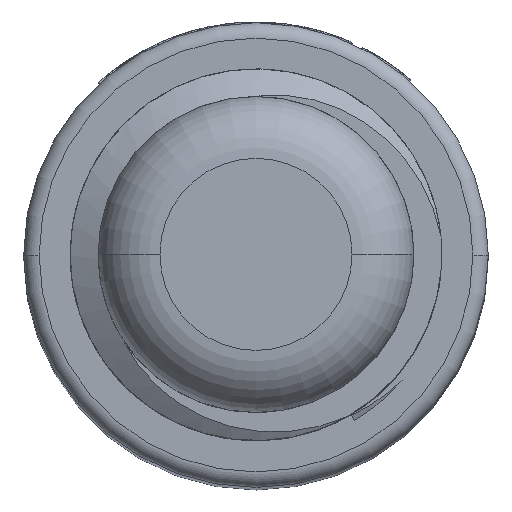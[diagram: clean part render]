
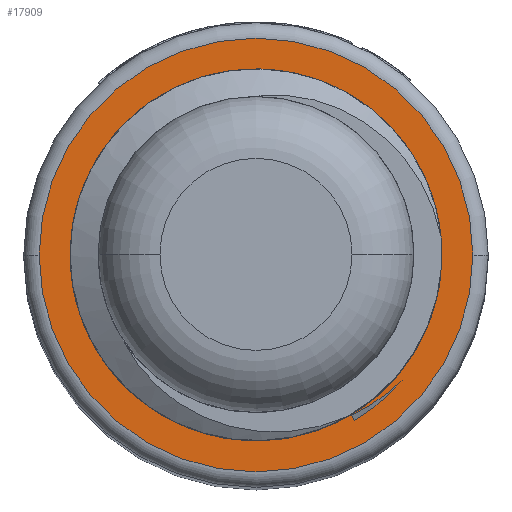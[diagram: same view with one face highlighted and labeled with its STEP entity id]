
A CAD part, top view. The second image highlights one B-rep face of the part: STEP entity #17909.
In plain terms, the highlighted planar face has unit normal (0, 0, 1).
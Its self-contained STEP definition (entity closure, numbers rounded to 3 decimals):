
#5436=CARTESIAN_POINT('',(0.,0.,48.5));
#5437=DIRECTION('',(0.,0.,1.));
#5438=DIRECTION('',(1.,0.,0.));
#5439=AXIS2_PLACEMENT_3D('',#5436,#5437,#5438);
#5441=CARTESIAN_POINT('',(0.,0.,48.5));
#5442=DIRECTION('',(0.,0.,1.));
#5443=DIRECTION('',(-1.,0.,0.));
#5444=AXIS2_PLACEMENT_3D('',#5441,#5442,#5443);
#5446=DIRECTION('',(-0.512,0.859,0.));
#5447=VECTOR('',#5446,0.386);
#5448=CARTESIAN_POINT('',(6.358,-10.681,48.5));
#5449=LINE('',#5448,#5447);
#5450=CARTESIAN_POINT('',(9.426,-8.103,48.5));
#5451=CARTESIAN_POINT('',(9.28,-8.273,48.5));
#5452=CARTESIAN_POINT('',(8.979,-8.604,48.5));
#5453=CARTESIAN_POINT('',(8.502,-9.076,48.5));
#5454=CARTESIAN_POINT('',(8.,-9.521,48.5));
#5455=CARTESIAN_POINT('',(7.475,-9.939,48.5));
#5456=CARTESIAN_POINT('',(6.928,-10.327,48.5));
#5457=CARTESIAN_POINT('',(6.551,-10.566,48.5));
#5458=CARTESIAN_POINT('',(6.358,-10.681,48.5));
#5460=CARTESIAN_POINT('',(6.161,-10.349,48.5));
#5461=CARTESIAN_POINT('',(6.361,-10.255,48.5));
#5462=CARTESIAN_POINT('',(6.756,-10.056,48.5));
#5463=CARTESIAN_POINT('',(7.332,-9.726,48.5));
#5464=CARTESIAN_POINT('',(7.889,-9.364,48.5));
#5465=CARTESIAN_POINT('',(8.425,-8.973,48.5));
#5466=CARTESIAN_POINT('',(8.939,-8.554,48.5));
#5467=CARTESIAN_POINT('',(9.266,-8.256,48.5));
#5468=CARTESIAN_POINT('',(9.426,-8.103,48.5));
#5470=CARTESIAN_POINT('',(0.,0.,48.5));
#5471=DIRECTION('',(0.,0.,1.));
#5472=DIRECTION('',(-1.,0.,0.));
#5473=AXIS2_PLACEMENT_3D('',#5470,#5471,#5472);
#5475=CARTESIAN_POINT('',(0.,0.,48.5));
#5476=DIRECTION('',(0.,0.,1.));
#5477=DIRECTION('',(1.,0.,0.));
#5478=AXIS2_PLACEMENT_3D('',#5475,#5476,#5477);
#6092=CARTESIAN_POINT('',(12.,0.,48.5));
#6093=CARTESIAN_POINT('',(-12.,0.,48.5));
#6094=VERTEX_POINT('',#6092);
#6095=VERTEX_POINT('',#6093);
#6100=CARTESIAN_POINT('',(6.358,-10.681,48.5));
#6101=CARTESIAN_POINT('',(6.161,-10.349,48.5));
#6102=VERTEX_POINT('',#6100);
#6103=VERTEX_POINT('',#6101);
#6104=VERTEX_POINT('',#5468);
#7068=CARTESIAN_POINT('',(-14.,0.,48.5));
#7069=CARTESIAN_POINT('',(14.,0.,48.5));
#7070=VERTEX_POINT('',#7068);
#7071=VERTEX_POINT('',#7069);
#17885=CARTESIAN_POINT('',(0.,0.,48.5));
#17886=DIRECTION('',(0.,0.,1.));
#17887=DIRECTION('',(1.,0.,0.));
#17888=AXIS2_PLACEMENT_3D('',#17885,#17886,#17887);
#17889=PLANE('',#17888);
#17890=ORIENTED_EDGE('',*,*,#17875,.F.);
#17892=ORIENTED_EDGE('',*,*,#17891,.F.);
#17893=EDGE_LOOP('',(#17890,#17892));
#17894=FACE_OUTER_BOUND('',#17893,.F.);
#17896=ORIENTED_EDGE('',*,*,#17895,.F.);
#17898=ORIENTED_EDGE('',*,*,#17897,.F.);
#17900=ORIENTED_EDGE('',*,*,#17899,.F.);
#17901=EDGE_LOOP('',(#17896,#17898,#17900));
#17902=FACE_BOUND('',#17901,.F.);
#17904=ORIENTED_EDGE('',*,*,#17903,.T.);
#17906=ORIENTED_EDGE('',*,*,#17905,.T.);
#17907=EDGE_LOOP('',(#17904,#17906));
#17908=FACE_BOUND('',#17907,.F.);
#17909=ADVANCED_FACE('',(#17894,#17902,#17908),#17889,.T.);
#5440=CIRCLE('',#5439,12.);
#5445=CIRCLE('',#5444,12.);
#5459=B_SPLINE_CURVE_WITH_KNOTS('',3,(#5450,#5451,#5452,#5453,#5454,#5455,#5456,
#5457,#5458),.UNSPECIFIED.,.F.,.F.,(4,1,1,1,1,1,4),(0.,0.167,
0.333,0.5,0.667,0.833,1.),
.UNSPECIFIED.);
#5469=B_SPLINE_CURVE_WITH_KNOTS('',3,(#5460,#5461,#5462,#5463,#5464,#5465,#5466,
#5467,#5468),.UNSPECIFIED.,.F.,.F.,(4,1,1,1,1,1,4),(0.,0.167,
0.333,0.5,0.667,0.833,1.),
.UNSPECIFIED.);
#5474=CIRCLE('',#5473,14.);
#5479=CIRCLE('',#5478,14.);
#17875=EDGE_CURVE('',#7070,#7071,#5474,.T.);
#17891=EDGE_CURVE('',#7071,#7070,#5479,.T.);
#17895=EDGE_CURVE('',#6102,#6103,#5449,.T.);
#17897=EDGE_CURVE('',#6104,#6102,#5459,.T.);
#17899=EDGE_CURVE('',#6103,#6104,#5469,.T.);
#17903=EDGE_CURVE('',#6094,#6095,#5440,.T.);
#17905=EDGE_CURVE('',#6095,#6094,#5445,.T.);
